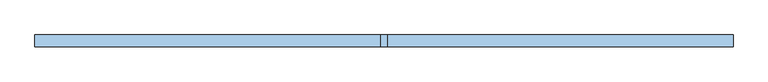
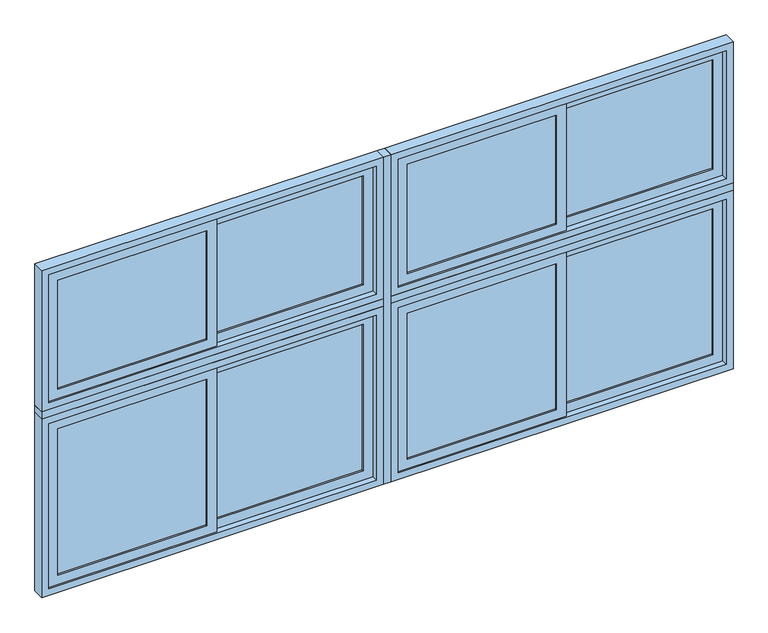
"""IFC4 building model written with IfcOpenShell, lengths in millimetres: window geometry, A12 Ventana_Corrediza_PC_4 hojas Antepecho : A12.2 Ventana_Corrediza_PC_4 hojas 440x220."""

from ifc_helpers import new_model, si_unit, frame, origin, place, context, project, spatial, polyline, outline, extrude, source, transform, mapped, element, save


def window_79354036(model_context):
    return source(origin(), model_context, "Body", "SweptSolid", [
        extrude(outline(polyline([(-1144.0, 3.0), (-2092.0, 3.0), (-2092.0, 9.0), (-1144.0, 9.0), (-1144.0, 3.0)])), frame((0.0, 0.0, 2258.0), z_axis=(0.0, 0.0, 1.0), x_axis=(1.0, 0.0, 0.0)), (0.0, 0.0, 1.0), 734.0),
        extrude(outline(polyline([(-1144.0, 3.0), (-2092.0, 3.0), (-2092.0, 9.0), (-1144.0, 9.0), (-1144.0, 3.0)])), frame((0.0, 0.0, 1008.0), z_axis=(0.0, 0.0, 1.0), x_axis=(1.0, 0.0, 0.0)), (0.0, 0.0, 1.0), 984.0),
        extrude(outline(polyline([(-133.0, 31.0), (-1081.0, 31.0), (-1081.0, 37.0), (-133.0, 37.0), (-133.0, 31.0)])), frame((0.0, 0.0, 2258.0), z_axis=(0.0, 0.0, 1.0), x_axis=(1.0, 0.0, 0.0)), (0.0, 0.0, 1.0), 734.0),
        extrude(outline(polyline([(-133.0, 31.0), (-1081.0, 31.0), (-1081.0, 37.0), (-133.0, 37.0), (-133.0, 31.0)])), frame((0.0, 0.0, 1008.0), z_axis=(0.0, 0.0, 1.0), x_axis=(1.0, 0.0, 0.0)), (0.0, 0.0, 1.0), 984.0),
        extrude(outline(polyline([(3055.0, -2155.0), (2195.0, -2155.0), (2195.0, -1081.0), (3055.0, -1081.0), (3055.0, -2155.0)]), holes=[polyline([(2992.0, -2092.0), (2992.0, -1144.0), (2258.0, -1144.0), (2258.0, -2092.0), (2992.0, -2092.0)])]), frame((0.0, -8.0, 0.0), z_axis=(0.0, 1.0, 0.0), x_axis=(0.0, 0.0, 1.0)), (0.0, 0.0, 1.0), 28.0),
        extrude(outline(polyline([(2055.0, -2155.0), (945.0, -2155.0), (945.0, -1081.0), (2055.0, -1081.0), (2055.0, -2155.0)]), holes=[polyline([(1992.0, -2092.0), (1992.0, -1144.0), (1008.0, -1144.0), (1008.0, -2092.0), (1992.0, -2092.0)])]), frame((0.0, -8.0, 0.0), z_axis=(0.0, 1.0, 0.0), x_axis=(0.0, 0.0, 1.0)), (0.0, 0.0, 1.0), 28.0),
        extrude(outline(polyline([(3055.0, -1144.0), (2195.0, -1144.0), (2195.0, -70.0), (3055.0, -70.0), (3055.0, -1144.0)]), holes=[polyline([(2992.0, -1081.0), (2992.0, -133.0), (2258.0, -133.0), (2258.0, -1081.0), (2992.0, -1081.0)])]), frame((0.0, 20.0, 0.0), z_axis=(0.0, 1.0, 0.0), x_axis=(0.0, 0.0, 1.0)), (0.0, 0.0, 1.0), 28.0),
        extrude(outline(polyline([(2055.0, -1144.0), (945.0, -1144.0), (945.0, -70.0), (2055.0, -70.0), (2055.0, -1144.0)]), holes=[polyline([(1992.0, -1081.0), (1992.0, -133.0), (1008.0, -133.0), (1008.0, -1081.0), (1992.0, -1081.0)])]), frame((0.0, 20.0, 0.0), z_axis=(0.0, 1.0, 0.0), x_axis=(0.0, 0.0, 1.0)), (0.0, 0.0, 1.0), 28.0),
        extrude(outline(polyline([(1081.0, 3.0), (133.0, 3.0), (133.0, 9.0), (1081.0, 9.0), (1081.0, 3.0)])), frame((0.0, 0.0, 2258.0), z_axis=(0.0, 0.0, 1.0), x_axis=(1.0, 0.0, 0.0)), (0.0, 0.0, 1.0), 734.0),
        extrude(outline(polyline([(1081.0, 3.0), (133.0, 3.0), (133.0, 9.0), (1081.0, 9.0), (1081.0, 3.0)])), frame((0.0, 0.0, 1008.0), z_axis=(0.0, 0.0, 1.0), x_axis=(1.0, 0.0, 0.0)), (0.0, 0.0, 1.0), 984.0),
        extrude(outline(polyline([(2092.0, 31.0), (1144.0, 31.0), (1144.0, 37.0), (2092.0, 37.0), (2092.0, 31.0)])), frame((0.0, 0.0, 2258.0), z_axis=(0.0, 0.0, 1.0), x_axis=(1.0, 0.0, 0.0)), (0.0, 0.0, 1.0), 734.0),
        extrude(outline(polyline([(2092.0, 31.0), (1144.0, 31.0), (1144.0, 37.0), (2092.0, 37.0), (2092.0, 31.0)])), frame((0.0, 0.0, 1008.0), z_axis=(0.0, 0.0, 1.0), x_axis=(1.0, 0.0, 0.0)), (0.0, 0.0, 1.0), 984.0),
        extrude(outline(polyline([(945.0, 70.0), (945.0, 1144.0), (2055.0, 1144.0), (2055.0, 70.0), (945.0, 70.0)]), holes=[polyline([(1008.0, 133.0), (1992.0, 133.0), (1992.0, 1081.0), (1008.0, 1081.0), (1008.0, 133.0)])]), frame((0.0, -8.0, 0.0), z_axis=(0.0, 1.0, 0.0), x_axis=(0.0, 0.0, 1.0)), (0.0, 0.0, 1.0), 28.0),
        extrude(outline(polyline([(3055.0, 70.0), (2195.0, 70.0), (2195.0, 1144.0), (3055.0, 1144.0), (3055.0, 70.0)]), holes=[polyline([(2258.0, 133.0), (2992.0, 133.0), (2992.0, 1081.0), (2258.0, 1081.0), (2258.0, 133.0)])]), frame((0.0, -8.0, 0.0), z_axis=(0.0, 1.0, 0.0), x_axis=(0.0, 0.0, 1.0)), (0.0, 0.0, 1.0), 28.0),
        extrude(outline(polyline([(2055.0, 2155.0), (2055.0, 1081.0), (945.0, 1081.0), (945.0, 2155.0), (2055.0, 2155.0)]), holes=[polyline([(1992.0, 1144.0), (1992.0, 2092.0), (1008.0, 2092.0), (1008.0, 1144.0), (1992.0, 1144.0)])]), frame((0.0, 20.0, 0.0), z_axis=(0.0, 1.0, 0.0), x_axis=(0.0, 0.0, 1.0)), (0.0, 0.0, 1.0), 28.0),
        extrude(outline(polyline([(2195.0, 1081.0), (2195.0, 2155.0), (3055.0, 2155.0), (3055.0, 1081.0), (2195.0, 1081.0)]), holes=[polyline([(2992.0, 1144.0), (2992.0, 2092.0), (2258.0, 2092.0), (2258.0, 1144.0), (2992.0, 1144.0)])]), frame((0.0, 20.0, 0.0), z_axis=(0.0, 1.0, 0.0), x_axis=(0.0, 0.0, 1.0)), (0.0, 0.0, 1.0), 28.0),
        extrude(outline(polyline([(2100.0, 25.0), (900.0, 25.0), (900.0, 2200.0), (2100.0, 2200.0), (2100.0, 25.0)]), holes=[polyline([(2055.0, 70.0), (2055.0, 2155.0), (945.0, 2155.0), (945.0, 70.0), (2055.0, 70.0)])]), frame((0.0, -17.5, 0.0), z_axis=(0.0, 1.0, 0.0), x_axis=(0.0, 0.0, 1.0)), (0.0, 0.0, 1.0), 75.0),
        extrude(outline(polyline([(2100.0, -2200.0), (900.0, -2200.0), (900.0, -25.0), (2100.0, -25.0), (2100.0, -2200.0)]), holes=[polyline([(2055.0, -2155.0), (2055.0, -70.0), (945.0, -70.0), (945.0, -2155.0), (2055.0, -2155.0)])]), frame((0.0, -17.5, 0.0), z_axis=(0.0, 1.0, 0.0), x_axis=(0.0, 0.0, 1.0)), (0.0, 0.0, 1.0), 75.0),
        extrude(outline(polyline([(3100.0, 25.0), (2150.0, 25.0), (2150.0, 2200.0), (3100.0, 2200.0), (3100.0, 25.0)]), holes=[polyline([(3055.0, 70.0), (3055.0, 2155.0), (2195.0, 2155.0), (2195.0, 70.0), (3055.0, 70.0)])]), frame((0.0, -17.5, 0.0), z_axis=(0.0, 1.0, 0.0), x_axis=(0.0, 0.0, 1.0)), (0.0, 0.0, 1.0), 75.0),
        extrude(outline(polyline([(2150.0, -2200.0), (2150.0, -25.0), (3100.0, -25.0), (3100.0, -2200.0), (2150.0, -2200.0)]), holes=[polyline([(3055.0, -2155.0), (3055.0, -70.0), (2195.0, -70.0), (2195.0, -2155.0), (3055.0, -2155.0)])]), frame((0.0, -17.5, 0.0), z_axis=(0.0, 1.0, 0.0), x_axis=(0.0, 0.0, 1.0)), (0.0, 0.0, 1.0), 75.0),
        extrude(outline(polyline([(2200.0, -17.5), (25.0, -17.5), (25.0, 57.5), (2200.0, 57.5), (2200.0, -17.5)])), frame((0.0, 0.0, 2100.0), z_axis=(0.0, 0.0, 1.0), x_axis=(1.0, 0.0, 0.0)), (0.0, 0.0, 1.0), 50.0),
        extrude(outline(polyline([(-25.0, -17.5), (-2200.0, -17.5), (-2200.0, 57.5), (-25.0, 57.5), (-25.0, -17.5)])), frame((0.0, 0.0, 2100.0), z_axis=(0.0, 0.0, 1.0), x_axis=(1.0, 0.0, 0.0)), (0.0, 0.0, 1.0), 50.0),
        extrude(outline(polyline([(25.0, -17.5), (-25.0, -17.5), (-25.0, 57.5), (25.0, 57.5), (25.0, -17.5)])), frame((0.0, 0.0, 900.0), z_axis=(0.0, 0.0, 1.0), x_axis=(1.0, 0.0, 0.0)), (0.0, 0.0, 1.0), 2200.0),
    ])


if __name__ == "__main__":
    model = new_model("IFC4")
    model_context = context("Model", 3, world=origin())
    ifc_project = project(units=[si_unit("LENGTHUNIT", "METRE", prefix="MILLI")], contexts=[model_context])
    site = spatial("IfcSite", under=ifc_project)
    building = spatial("IfcBuilding", under=site)
    placement = place(None, origin())
    window_shape = window_79354036(model_context)
    element("IfcWindow", 1, ObjectType="A12 Ventana_Corrediza_PC_4 hojas Antepecho : A12.2 Ventana_Corrediza_PC_4 hojas 440x220", at=placement, inside=building, context=model_context, shape_type="MappedRepresentation", body=[
        mapped(window_shape, transform((0.0, 0.0, 0.0), x_axis=(1.0, 0.0, 0.0), y_axis=(0.0, 1.0, 0.0), z_axis=(0.0, 0.0, 1.0))),
    ])
    save(model, "model.ifc")
